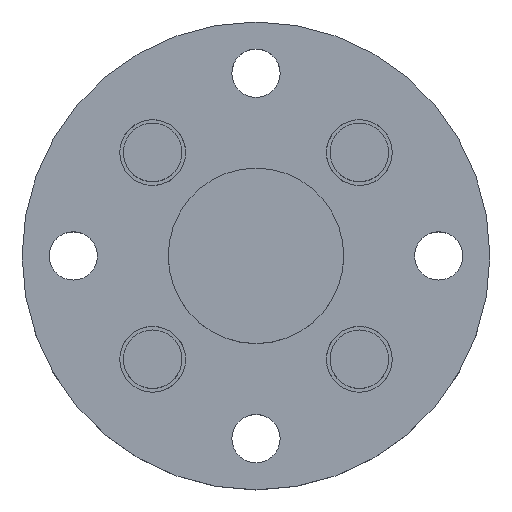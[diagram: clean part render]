
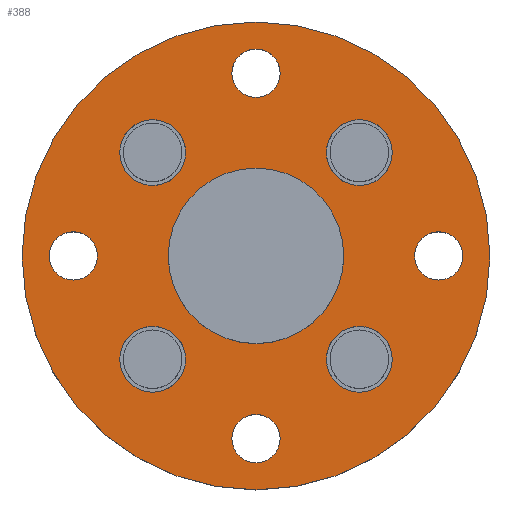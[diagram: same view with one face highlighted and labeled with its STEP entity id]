
A CAD part, top view. The second image highlights one B-rep face of the part: STEP entity #388.
In plain terms, the highlighted planar face has unit normal (0, 0, 1).
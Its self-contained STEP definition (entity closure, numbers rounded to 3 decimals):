
#388=ADVANCED_FACE('',(#475,#476,#477,#478,#479,#480,#481,#482,#483,#484),#485,.T.);
#475=FACE_BOUND('',#671,.T.);
#476=FACE_BOUND('',#672,.T.);
#477=FACE_BOUND('',#673,.T.);
#478=FACE_BOUND('',#674,.T.);
#479=FACE_BOUND('',#675,.T.);
#480=FACE_BOUND('',#676,.T.);
#481=FACE_BOUND('',#677,.T.);
#482=FACE_BOUND('',#678,.T.);
#483=FACE_BOUND('',#679,.T.);
#484=FACE_OUTER_BOUND('',#680,.T.);
#485=PLANE('',#681);
#671=EDGE_LOOP('',(#872));
#672=EDGE_LOOP('',(#873));
#673=EDGE_LOOP('',(#874));
#674=EDGE_LOOP('',(#875));
#675=EDGE_LOOP('',(#876));
#676=EDGE_LOOP('',(#877));
#677=EDGE_LOOP('',(#878));
#678=EDGE_LOOP('',(#879));
#679=EDGE_LOOP('',(#880));
#680=EDGE_LOOP('',(#881));
#681=AXIS2_PLACEMENT_3D('',#882,#883,#884);
#872=ORIENTED_EDGE('',*,*,#1310,.T.);
#873=ORIENTED_EDGE('',*,*,#1311,.T.);
#874=ORIENTED_EDGE('',*,*,#1312,.T.);
#875=ORIENTED_EDGE('',*,*,#1313,.T.);
#876=ORIENTED_EDGE('',*,*,#1314,.T.);
#877=ORIENTED_EDGE('',*,*,#1315,.T.);
#878=ORIENTED_EDGE('',*,*,#1298,.T.);
#879=ORIENTED_EDGE('',*,*,#1316,.T.);
#880=ORIENTED_EDGE('',*,*,#1317,.F.);
#881=ORIENTED_EDGE('',*,*,#1309,.T.);
#882=CARTESIAN_POINT('',(0.0,0.0,5.0));
#883=DIRECTION('',(0.0,0.0,1.0));
#884=DIRECTION('',(1.0,0.0,0.0));
#1298=EDGE_CURVE('',#1416,#1416,#1417,.F.);
#1309=EDGE_CURVE('',#1438,#1438,#1439,.T.);
#1310=EDGE_CURVE('',#1440,#1440,#1441,.F.);
#1311=EDGE_CURVE('',#1442,#1442,#1443,.F.);
#1312=EDGE_CURVE('',#1444,#1444,#1445,.F.);
#1313=EDGE_CURVE('',#1446,#1446,#1447,.F.);
#1314=EDGE_CURVE('',#1448,#1448,#1449,.F.);
#1315=EDGE_CURVE('',#1450,#1450,#1451,.F.);
#1316=EDGE_CURVE('',#1452,#1452,#1453,.F.);
#1317=EDGE_CURVE('',#1454,#1454,#1455,.T.);
#1416=VERTEX_POINT('',#1628);
#1417=CIRCLE('',#1629,1.65);
#1438=VERTEX_POINT('',#1650);
#1439=CIRCLE('',#1651,16.0);
#1440=VERTEX_POINT('',#1652);
#1441=CIRCLE('',#1653,2.25);
#1442=VERTEX_POINT('',#1654);
#1443=CIRCLE('',#1655,2.25);
#1444=VERTEX_POINT('',#1656);
#1445=CIRCLE('',#1657,2.25);
#1446=VERTEX_POINT('',#1658);
#1447=CIRCLE('',#1659,2.25);
#1448=VERTEX_POINT('',#1660);
#1449=CIRCLE('',#1661,1.65);
#1450=VERTEX_POINT('',#1662);
#1451=CIRCLE('',#1663,1.65);
#1452=VERTEX_POINT('',#1664);
#1453=CIRCLE('',#1665,1.65);
#1454=VERTEX_POINT('',#1666);
#1455=CIRCLE('',#1667,6.0);
#1628=CARTESIAN_POINT('',(1.65,-12.5,5.0));
#1629=AXIS2_PLACEMENT_3D('',#1912,#1913,#1914);
#1650=CARTESIAN_POINT('',(16.0,0.0,5.0));
#1651=AXIS2_PLACEMENT_3D('',#1945,#1946,#1947);
#1652=CARTESIAN_POINT('',(9.321,-7.071,5.0));
#1653=AXIS2_PLACEMENT_3D('',#1948,#1949,#1950);
#1654=CARTESIAN_POINT('',(-4.821,-7.071,5.0));
#1655=AXIS2_PLACEMENT_3D('',#1951,#1952,#1953);
#1656=CARTESIAN_POINT('',(-4.821,7.071,5.0));
#1657=AXIS2_PLACEMENT_3D('',#1954,#1955,#1956);
#1658=CARTESIAN_POINT('',(9.321,7.071,5.0));
#1659=AXIS2_PLACEMENT_3D('',#1957,#1958,#1959);
#1660=CARTESIAN_POINT('',(1.65,12.5,5.0));
#1661=AXIS2_PLACEMENT_3D('',#1960,#1961,#1962);
#1662=CARTESIAN_POINT('',(-10.85,0.,5.0));
#1663=AXIS2_PLACEMENT_3D('',#1963,#1964,#1965);
#1664=CARTESIAN_POINT('',(14.15,0.0,5.0));
#1665=AXIS2_PLACEMENT_3D('',#1966,#1967,#1968);
#1666=CARTESIAN_POINT('',(6.0,0.0,5.0));
#1667=AXIS2_PLACEMENT_3D('',#1969,#1970,#1971);
#1912=CARTESIAN_POINT('',(0.,-12.5,5.0));
#1913=DIRECTION('',(0.0,0.0,1.0));
#1914=DIRECTION('',(1.0,0.0,0.0));
#1945=CARTESIAN_POINT('',(0.0,0.0,5.0));
#1946=DIRECTION('',(0.0,0.0,1.0));
#1947=DIRECTION('',(1.0,0.0,0.0));
#1948=CARTESIAN_POINT('',(7.071,-7.071,5.0));
#1949=DIRECTION('',(0.0,0.0,1.0));
#1950=DIRECTION('',(1.0,0.0,0.0));
#1951=CARTESIAN_POINT('',(-7.071,-7.071,5.0));
#1952=DIRECTION('',(0.0,0.0,1.0));
#1953=DIRECTION('',(1.0,0.0,0.0));
#1954=CARTESIAN_POINT('',(-7.071,7.071,5.0));
#1955=DIRECTION('',(0.0,0.0,1.0));
#1956=DIRECTION('',(1.0,0.0,0.0));
#1957=CARTESIAN_POINT('',(7.071,7.071,5.0));
#1958=DIRECTION('',(0.0,0.0,1.0));
#1959=DIRECTION('',(1.0,0.0,0.0));
#1960=CARTESIAN_POINT('',(0.,12.5,5.0));
#1961=DIRECTION('',(0.0,0.0,1.0));
#1962=DIRECTION('',(1.0,0.0,0.0));
#1963=CARTESIAN_POINT('',(-12.5,0.,5.0));
#1964=DIRECTION('',(0.0,0.0,1.0));
#1965=DIRECTION('',(1.0,0.0,0.0));
#1966=CARTESIAN_POINT('',(12.5,0.0,5.0));
#1967=DIRECTION('',(0.0,0.0,1.0));
#1968=DIRECTION('',(1.0,0.0,0.0));
#1969=CARTESIAN_POINT('',(0.0,0.0,5.0));
#1970=DIRECTION('',(0.0,0.0,1.0));
#1971=DIRECTION('',(1.0,0.0,0.0));
